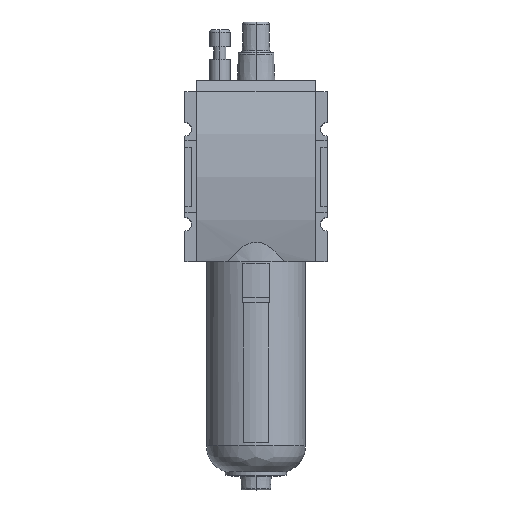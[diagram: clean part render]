
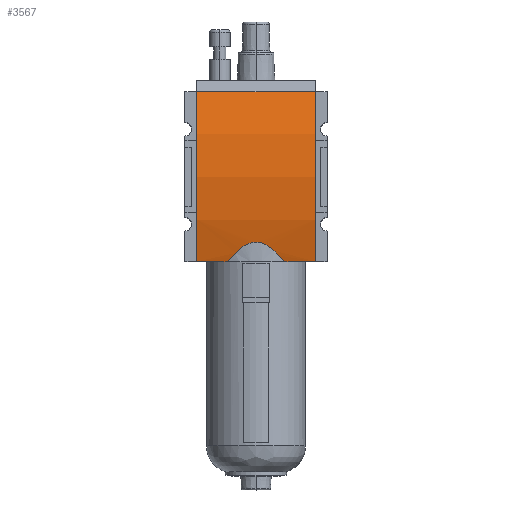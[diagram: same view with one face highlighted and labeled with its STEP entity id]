
A CAD part, top view. The second image highlights one B-rep face of the part: STEP entity #3567.
In plain terms, the highlighted cylindrical face has radius 125 mm (diameter 250 mm), a partial arc.
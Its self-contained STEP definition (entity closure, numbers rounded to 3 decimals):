
#67=CARTESIAN_POINT('',(-26.25,0.,-88.));
#68=DIRECTION('',(1.,0.,0.));
#69=DIRECTION('',(0.,0.3,0.954));
#70=AXIS2_PLACEMENT_3D('',#67,#68,#69);
#584=CARTESIAN_POINT('',(26.25,0.,-88.));
#585=DIRECTION('',(1.,0.,0.));
#586=DIRECTION('',(0.,0.3,0.954));
#587=AXIS2_PLACEMENT_3D('',#584,#585,#586);
#639=DIRECTION('',(1.,0.,0.));
#640=VECTOR('',#639,13.886);
#641=CARTESIAN_POINT('',(-26.25,-37.5,31.242));
#642=LINE('',#641,#640);
#648=DIRECTION('',(1.,0.,0.));
#649=VECTOR('',#648,13.886);
#650=CARTESIAN_POINT('',(12.364,-37.5,31.242));
#651=LINE('',#650,#649);
#1319=DIRECTION('',(1.,0.,0.));
#1320=VECTOR('',#1319,52.5);
#1321=CARTESIAN_POINT('',(-26.25,37.5,31.242));
#1322=LINE('',#1321,#1320);
#1323=CARTESIAN_POINT('',(12.364,-37.5,31.242));
#1324=CARTESIAN_POINT('',(12.164,-37.248,31.322));
#1325=CARTESIAN_POINT('',(11.76,-36.748,31.477));
#1326=CARTESIAN_POINT('',(11.139,-36.008,31.702));
#1327=CARTESIAN_POINT('',(10.502,-35.279,31.919));
#1328=CARTESIAN_POINT('',(9.847,-34.563,32.127));
#1329=CARTESIAN_POINT('',(9.171,-33.862,32.327));
#1330=CARTESIAN_POINT('',(8.477,-33.183,32.516));
#1331=CARTESIAN_POINT('',(7.768,-32.534,32.693));
#1332=CARTESIAN_POINT('',(7.042,-31.919,32.857));
#1333=CARTESIAN_POINT('',(6.313,-31.354,33.004));
#1334=CARTESIAN_POINT('',(5.604,-30.857,33.132));
#1335=CARTESIAN_POINT('',(4.942,-30.442,33.237));
#1336=CARTESIAN_POINT('',(4.339,-30.106,33.32));
#1337=CARTESIAN_POINT('',(3.772,-29.828,33.389));
#1338=CARTESIAN_POINT('',(3.223,-29.593,33.446));
#1339=CARTESIAN_POINT('',(2.694,-29.401,33.493));
#1340=CARTESIAN_POINT('',(2.182,-29.247,33.53));
#1341=CARTESIAN_POINT('',(1.684,-29.128,33.559));
#1342=CARTESIAN_POINT('',(1.196,-29.04,33.58));
#1343=CARTESIAN_POINT('',(0.717,-28.983,
33.593));
#1344=CARTESIAN_POINT('',(0.239,-28.955,
33.6));
#1345=CARTESIAN_POINT('',(-0.237,-28.955,
33.6));
#1346=CARTESIAN_POINT('',(-0.714,-28.983,
33.594));
#1347=CARTESIAN_POINT('',(-1.194,-29.04,
33.58));
#1348=CARTESIAN_POINT('',(-1.681,-29.127,
33.559));
#1349=CARTESIAN_POINT('',(-2.18,-29.246,
33.53));
#1350=CARTESIAN_POINT('',(-2.691,-29.4,
33.493));
#1351=CARTESIAN_POINT('',(-3.221,-29.592,
33.447));
#1352=CARTESIAN_POINT('',(-3.769,-29.826,
33.389));
#1353=CARTESIAN_POINT('',(-4.336,-30.105,
33.321));
#1354=CARTESIAN_POINT('',(-4.939,-30.441,
33.237));
#1355=CARTESIAN_POINT('',(-5.601,-30.855,
33.132));
#1356=CARTESIAN_POINT('',(-6.31,-31.351,
33.005));
#1357=CARTESIAN_POINT('',(-7.038,-31.916,
32.857));
#1358=CARTESIAN_POINT('',(-7.763,-32.53,
32.694));
#1359=CARTESIAN_POINT('',(-8.473,-33.179,
32.517));
#1360=CARTESIAN_POINT('',(-9.167,-33.858,
32.328));
#1361=CARTESIAN_POINT('',(-9.843,-34.559,
32.128));
#1362=CARTESIAN_POINT('',(-10.499,-35.276,
31.92));
#1363=CARTESIAN_POINT('',(-11.137,-36.006,
31.703));
#1364=CARTESIAN_POINT('',(-11.759,-36.747,
31.477));
#1365=CARTESIAN_POINT('',(-12.164,-37.248,
31.322));
#1366=CARTESIAN_POINT('',(-12.364,-37.5,31.242));
#1694=CARTESIAN_POINT('',(-26.25,-37.5,31.242));
#1696=VERTEX_POINT('',#1694);
#1698=CARTESIAN_POINT('',(26.25,-37.5,31.242));
#1700=VERTEX_POINT('',#1698);
#1750=CARTESIAN_POINT('',(-12.364,-37.5,31.242));
#1751=VERTEX_POINT('',#1750);
#1752=CARTESIAN_POINT('',(12.364,-37.5,31.242));
#1753=VERTEX_POINT('',#1752);
#2014=CARTESIAN_POINT('',(-26.25,37.5,31.242));
#2015=VERTEX_POINT('',#2014);
#2018=CARTESIAN_POINT('',(26.25,37.5,31.242));
#2019=VERTEX_POINT('',#2018);
#3553=CARTESIAN_POINT('',(-26.25,0.,-88.));
#3554=DIRECTION('',(1.,0.,0.));
#3555=DIRECTION('',(0.,0.,-1.));
#3556=AXIS2_PLACEMENT_3D('',#3553,#3554,#3555);
#3557=CYLINDRICAL_SURFACE('',#3556,125.);
#3558=ORIENTED_EDGE('',*,*,#2143,.F.);
#3559=ORIENTED_EDGE('',*,*,#2851,.T.);
#3560=ORIENTED_EDGE('',*,*,#2706,.T.);
#3561=ORIENTED_EDGE('',*,*,#2767,.F.);
#3563=ORIENTED_EDGE('',*,*,#3562,.T.);
#3564=ORIENTED_EDGE('',*,*,#2763,.F.);
#3565=EDGE_LOOP('',(#3558,#3559,#3560,#3561,#3563,#3564));
#3566=FACE_OUTER_BOUND('',#3565,.F.);
#3567=ADVANCED_FACE('',(#3566),#3557,.T.);
#71=CIRCLE('',#70,125.);
#588=CIRCLE('',#587,125.);
#1367=B_SPLINE_CURVE_WITH_KNOTS('',3,(#1323,#1324,#1325,#1326,#1327,#1328,#1329,
#1330,#1331,#1332,#1333,#1334,#1335,#1336,#1337,#1338,#1339,#1340,#1341,#1342,
#1343,#1344,#1345,#1346,#1347,#1348,#1349,#1350,#1351,#1352,#1353,#1354,#1355,
#1356,#1357,#1358,#1359,#1360,#1361,#1362,#1363,#1364,#1365,#1366),
.UNSPECIFIED.,.F.,.F.,(4,1,1,1,1,1,1,1,1,1,1,1,1,1,1,1,1,1,1,1,1,1,1,1,1,1,1,1,
1,1,1,1,1,1,1,1,1,1,1,1,1,4),(0.,0.024,0.049,
0.073,0.098,0.122,0.146,
0.171,0.195,0.22,0.244,
0.268,0.293,0.317,0.341,
0.366,0.39,0.415,0.439,
0.463,0.488,0.512,0.537,
0.561,0.585,0.61,0.634,
0.659,0.683,0.707,0.732,
0.756,0.78,0.805,0.829,
0.854,0.878,0.902,0.927,
0.951,0.976,1.),.UNSPECIFIED.);
#2143=EDGE_CURVE('',#2015,#1696,#71,.T.);
#2706=EDGE_CURVE('',#2019,#1700,#588,.T.);
#2763=EDGE_CURVE('',#1696,#1751,#642,.T.);
#2767=EDGE_CURVE('',#1753,#1700,#651,.T.);
#2851=EDGE_CURVE('',#2015,#2019,#1322,.T.);
#3562=EDGE_CURVE('',#1753,#1751,#1367,.T.);
